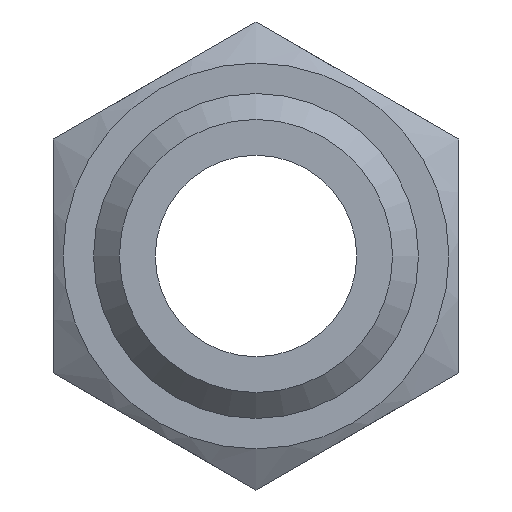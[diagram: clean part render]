
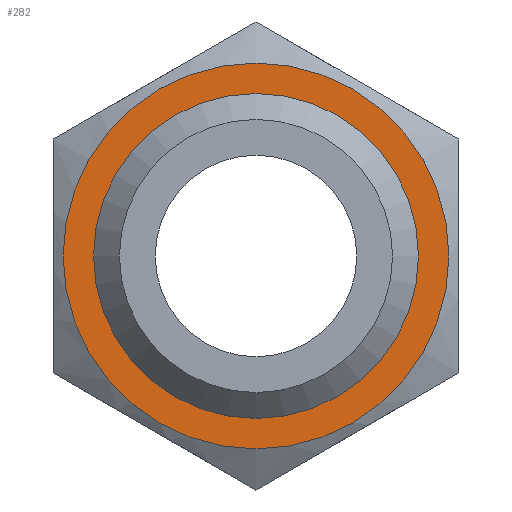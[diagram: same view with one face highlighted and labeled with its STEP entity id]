
A CAD part, front view. The second image highlights one B-rep face of the part: STEP entity #282.
In plain terms, the highlighted planar face has unit normal (0, -1, 0).
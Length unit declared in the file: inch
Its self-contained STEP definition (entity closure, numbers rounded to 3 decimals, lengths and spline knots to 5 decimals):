
#20=FACE_BOUND('',#73,.T.);
#31=CIRCLE('',#320,0.14992);
#34=CIRCLE('',#325,0.178);
#53=FACE_OUTER_BOUND('',#72,.T.);
#72=EDGE_LOOP('',(#240));
#73=EDGE_LOOP('',(#241));
#137=VERTEX_POINT('',#495);
#140=VERTEX_POINT('',#504);
#173=EDGE_CURVE('',#137,#137,#31,.F.);
#176=EDGE_CURVE('',#140,#140,#34,.T.);
#240=ORIENTED_EDGE('',*,*,#176,.F.);
#241=ORIENTED_EDGE('',*,*,#173,.F.);
#267=PLANE('',#326);
#282=ADVANCED_FACE('',(#53,#20),#267,.T.);
#320=AXIS2_PLACEMENT_3D('',#497,#383,#384);
#325=AXIS2_PLACEMENT_3D('',#505,#393,#394);
#326=AXIS2_PLACEMENT_3D('',#507,#396,#397);
#383=DIRECTION('center_axis',(0.,1.,0.));
#384=DIRECTION('ref_axis',(0.,0.,-1.));
#393=DIRECTION('center_axis',(0.,1.,0.));
#394=DIRECTION('ref_axis',(0.,0.,1.));
#396=DIRECTION('center_axis',(0.,-1.,0.));
#397=DIRECTION('ref_axis',(0.,0.,-1.));
#495=CARTESIAN_POINT('',(0.,0.4,0.14992));
#497=CARTESIAN_POINT('Origin',(0.,0.4,0.));
#504=CARTESIAN_POINT('',(0.,0.4,-0.178));
#505=CARTESIAN_POINT('Origin',(0.,0.4,0.));
#507=CARTESIAN_POINT('Origin',(0.,0.4,-0.156));
